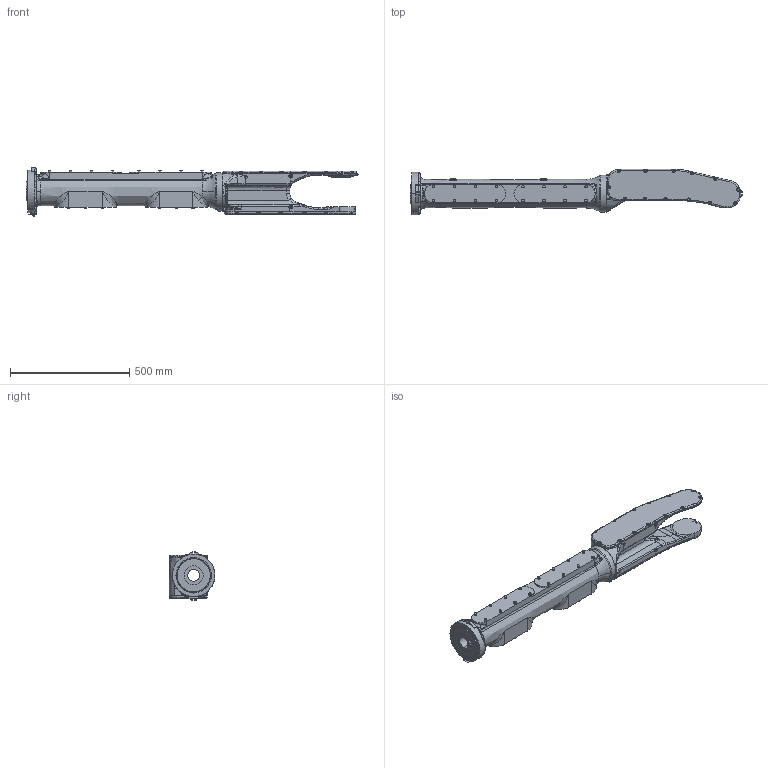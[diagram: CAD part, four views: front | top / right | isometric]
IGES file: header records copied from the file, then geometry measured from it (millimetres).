
Start section:  PTC IGES file: r_axis_gp20hl.igs
Global section: file name: r_axis_gp20hl.igs; native system: Creo Parametric by Parametric Technology Corporation; preprocessor: 2015030; author: ip-naka; organization: Unknown; date: 20190410.110641; units: millimetre
Bounding box: 1389.9 x 192 x 201.59 mm (x, y, z)
Volume: 18050902.2 mm3; surface area: 977170.8 mm2
Topology: 1 solids, 3 shells, 1710 faces, 4070 edges, 2480 vertices
Faces by surface type: revolution 935, bspline 775
